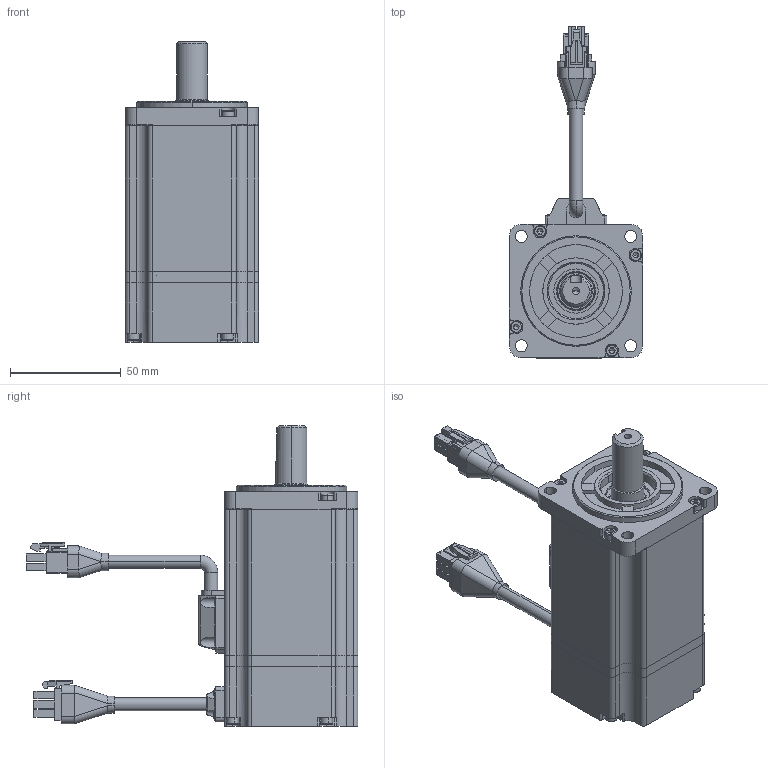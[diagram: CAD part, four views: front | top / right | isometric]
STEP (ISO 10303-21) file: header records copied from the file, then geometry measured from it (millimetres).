
FILE_DESCRIPTION (( 'STEP AP203' ), '1' );
FILE_NAME ('R60-400.STEP', '2019-08-23T07:14:17', ( '1' ), ( 'MideaGroup IT' ), 'SwSTEP 2.0', 'SolidWorks 2012', '' );
FILE_SCHEMA (( 'CONFIG_CONTROL_DESIGN' ));
Length unit declared in the file: millimetre
Products named in the file (25): R60-400; M3X28_GB_FASTENER_SCREWS_HSHCS M3X25-C; 雄薯盄揤裔郪璃; 雄薯盄傷赽裔; 雄薯盄; 雄薯盄傷赽; 雄薯盄躇猾菜; 雄薯盄揤裔; 毀嚏盄揤裔郪璃; 毀嚏盄傷赽揤裔; M2.5X5_GB_CROSS_SCREWS_TYPE3 M2.5X8-8-N; 晤鎢ん盄傷赽; 晤鎢ん盄揤裔躇猾; 晤鎢ん盄揤裔; 蛌赽郪璃-001; 6003; 6003_qiu; 6003_bq; 6003_nh; 6003_wq; 萇儂粣-001; 綴裔-001; 綴傷裔-001; ヶ傷裔-001; 儂褲-001
Assembly tree (48 placements, depth 4):
  R60-400
    儂褲-001
    ヶ傷裔-001
    綴傷裔-001
    綴裔-001
    蛌赽郪璃-001
      萇儂粣-001
      6003
        6003_wq
        6003_nh
        6003_bq
        6003_qiu  x11
    毀嚏盄揤裔郪璃
      晤鎢ん盄揤裔
      晤鎢ん盄揤裔躇猾
      晤鎢ん盄傷赽
      M2.5X5_GB_CROSS_SCREWS_TYPE3 M2.5X8-8-N  x4
      毀嚏盄傷赽揤裔
    雄薯盄揤裔郪璃
      雄薯盄揤裔
      雄薯盄躇猾菜
      雄薯盄傷赽
      雄薯盄
      M2.5X5_GB_CROSS_SCREWS_TYPE3 M2.5X8-8-N  x4
      雄薯盄傷赽裔
    M3X28_GB_FASTENER_SCREWS_HSHCS M3X25-C  x8
Bounding box: 60.2 x 150 x 136 mm (x, y, z)
Volume: 141529.1 mm3; surface area: 97466.1 mm2
Topology: 46 solids, 72 shells, 1570 faces, 4264 edges, 2810 vertices
Faces by surface type: plane 766, cylinder 607, cone 89, torus 56, sphere 38, bspline 14
Entity records: 46415 total; most frequent: CARTESIAN_POINT 11961, DIRECTION 6596, ORIENTED_EDGE 6293, EDGE_CURVE 3327, AXIS2_PLACEMENT_3D 2333, VERTEX_POINT 2214, LINE 1930, VECTOR 1930
